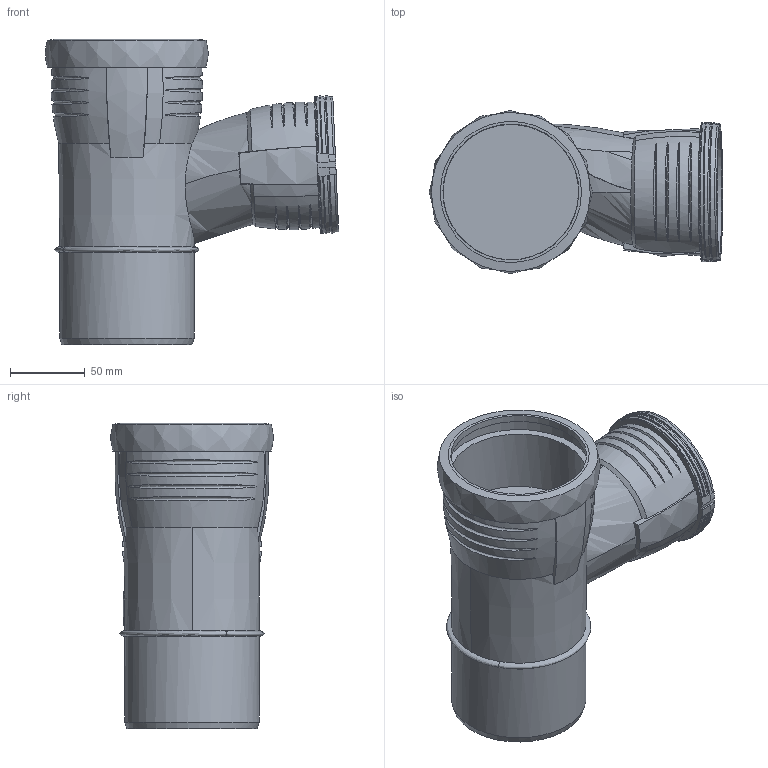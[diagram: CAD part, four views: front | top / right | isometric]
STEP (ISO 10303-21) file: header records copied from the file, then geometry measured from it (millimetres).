
FILE_DESCRIPTION(/* description */ (''),/* implementation_level */ '2;1');
FILE_NAME(/* name */ 'C:\Planerdaten\Export PLA\393.445.14.1\stp\393445.stp',/* time_stamp */ '2022-09-16T14:46:04+02:00',/* author */ ('JANAN'),/* organization */ (''),/* preprocessor_version */ 'ST-DEVELOPER v18.1',/* originating_system */ 'Autodesk Inventor 2021',/* authorisation */ '');
FILE_SCHEMA (('AUTOMOTIVE_DESIGN { 1 0 10303 214 3 1 1 }'));
Length unit declared in the file: millimetre
Products named in the file (1): tmpE109.tmp
Bounding box: 196.89 x 109.5 x 205 mm (x, y, z)
Volume: 1019889.5 mm3; surface area: 161501.3 mm2
Topology: 2 solids, 2 shells, 132 faces, 330 edges, 222 vertices
Faces by surface type: bspline 71, cone 29, cylinder 18, plane 12, torus 2
Full cylindrical faces by diameter (mm): 75.9 x1, 81.6 x1, 85 x2, 90.2 x1, 90.9 x1, 91.2 x1, 100.2 x1
Entity records: 17213 total; most frequent: CARTESIAN_POINT 14238, ORIENTED_EDGE 660, DIRECTION 470, EDGE_CURVE 330, VERTEX_POINT 222, AXIS2_PLACEMENT_3D 216, EDGE_LOOP 154, CIRCLE 138
